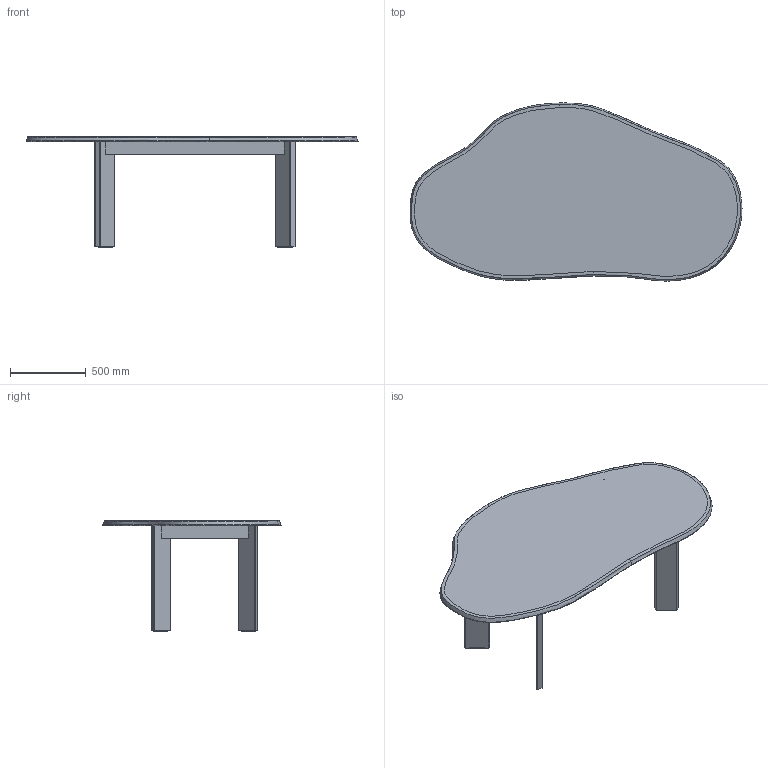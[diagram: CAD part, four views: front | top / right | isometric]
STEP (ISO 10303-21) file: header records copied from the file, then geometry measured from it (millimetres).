
FILE_DESCRIPTION(/* description */ (''),/* implementation_level */ '2;1');
FILE_NAME(/* name */ 'Contour Dining table_220_3D',/* time_stamp */ '2023-07-20T13:36:06+02:00',/* author */ (''),/* organization */ (''),/* preprocessor_version */ 'ST-DEVELOPER v16.5',/* originating_system */ 'Rhino 7.31',/* authorisation */ '');
FILE_SCHEMA (('CONFIG_CONTROL_DESIGN'));
Products named in the file (1): Document
Bounding box: 2198.73 x 1179.87 x 732 mm (x, y, z)
Volume: 86050752.4 mm3; surface area: 6117016.1 mm2
Topology: 57 solids, 65 shells, 2256 faces, 5966 edges, 3904 vertices
Faces by surface type: cylinder 1308, plane 542, bspline 406
Entity records: 119946 total; most frequent: CARTESIAN_POINT 80453, ORIENTED_EDGE 11908, EDGE_CURVE 5966, B_SPLINE_CURVE_WITH_KNOTS 4676, VERTEX_POINT 3904, EDGE_LOOP 2400, ADVANCED_FACE 2256, FACE_OUTER_BOUND 2256
